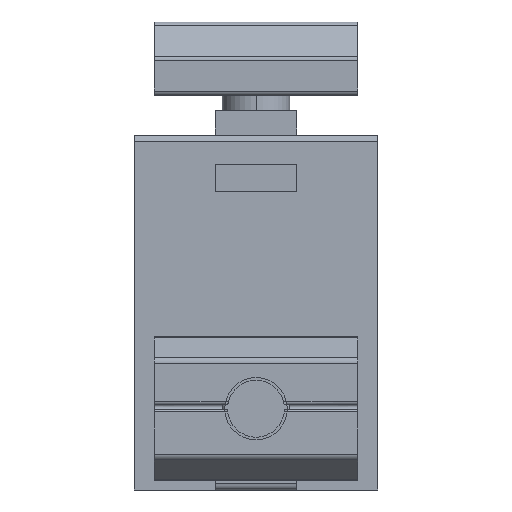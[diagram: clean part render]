
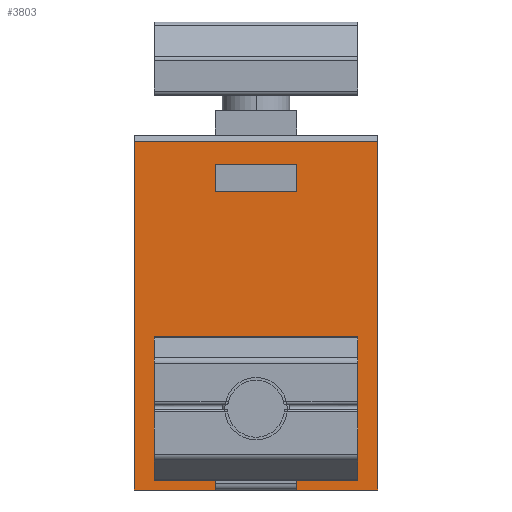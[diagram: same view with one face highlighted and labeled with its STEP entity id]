
A CAD part, left-side view. The second image highlights one B-rep face of the part: STEP entity #3803.
In plain terms, the highlighted planar face has unit normal (-1, 0, 0).
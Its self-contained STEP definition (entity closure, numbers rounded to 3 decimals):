
#7 = DIRECTION ( 'NONE',  ( 0., 0., 1. ) ) ;
#192 = CARTESIAN_POINT ( 'NONE',  ( 1.8, 6., -4. ) ) ;
#214 = CARTESIAN_POINT ( 'NONE',  ( 1.8, 6., -28. ) ) ;
#285 = CARTESIAN_POINT ( 'NONE',  ( 1.8, 9., -22. ) ) ;
#367 = ORIENTED_EDGE ( 'NONE', *, *, #2187, .T. ) ;
#514 = ORIENTED_EDGE ( 'NONE', *, *, #5459, .T. ) ;
#596 = EDGE_CURVE ( 'NONE', #8025, #1217, #8923, .T. ) ;
#605 = CARTESIAN_POINT ( 'NONE',  ( 1.8, 18., -2.3 ) ) ;
#787 = EDGE_CURVE ( 'NONE', #9099, #5266, #7165, .T. ) ;
#867 = VERTEX_POINT ( 'NONE', #6630 ) ;
#911 = ORIENTED_EDGE ( 'NONE', *, *, #596, .F. ) ;
#912 = EDGE_CURVE ( 'NONE', #9615, #5299, #3644, .T. ) ;
#1070 = VERTEX_POINT ( 'NONE', #4541 ) ;
#1147 = CARTESIAN_POINT ( 'NONE',  ( 1.8, 12., -6. ) ) ;
#1217 = VERTEX_POINT ( 'NONE', #214 ) ;
#1240 = CARTESIAN_POINT ( 'NONE',  ( 1.8, 12., -28. ) ) ;
#1473 = EDGE_LOOP ( 'NONE', ( #3561, #8133, #3430, #5357, #5062, #3177, #7162, #911 ) ) ;
#1677 = CIRCLE ( 'NONE', #4931, 2.6 ) ;
#1812 = VECTOR ( 'NONE', #2969, 1000. ) ;
#1894 = ORIENTED_EDGE ( 'NONE', *, *, #8973, .T. ) ;
#1900 = CARTESIAN_POINT ( 'NONE',  ( 1.8, 18., -28. ) ) ;
#1924 = CARTESIAN_POINT ( 'NONE',  ( 1.8, 0., -28. ) ) ;
#2018 = VECTOR ( 'NONE', #4176, 1000. ) ;
#2039 = VECTOR ( 'NONE', #6800, 1000. ) ;
#2074 = CARTESIAN_POINT ( 'NONE',  ( 1.8, 18., -4. ) ) ;
#2112 = DIRECTION ( 'NONE',  ( 0., -1., 0. ) ) ;
#2113 = DIRECTION ( 'NONE',  ( 0., -1., 0. ) ) ;
#2187 = EDGE_CURVE ( 'NONE', #9099, #5618, #5637, .T. ) ;
#2341 = DIRECTION ( 'NONE',  ( 0., 0., 1. ) ) ;
#2585 = CARTESIAN_POINT ( 'NONE',  ( 1.8, 6., -26. ) ) ;
#2615 = VECTOR ( 'NONE', #7622, 1000. ) ;
#2792 = FACE_BOUND ( 'NONE', #8846, .T. ) ;
#2969 = DIRECTION ( 'NONE',  ( 0., 0., 1. ) ) ;
#3177 = ORIENTED_EDGE ( 'NONE', *, *, #912, .T. ) ;
#3200 = CARTESIAN_POINT ( 'NONE',  ( 1.8, 12., -28. ) ) ;
#3311 = LINE ( 'NONE', #605, #4016 ) ;
#3342 = VECTOR ( 'NONE', #6467, 1000. ) ;
#3394 = VERTEX_POINT ( 'NONE', #192 ) ;
#3430 = ORIENTED_EDGE ( 'NONE', *, *, #4272, .F. ) ;
#3528 = AXIS2_PLACEMENT_3D ( 'NONE', #5931, #7348, #7412 ) ;
#3561 = ORIENTED_EDGE ( 'NONE', *, *, #8217, .T. ) ;
#3569 = CARTESIAN_POINT ( 'NONE',  ( 1.8, 12., -28. ) ) ;
#3592 = DIRECTION ( 'NONE',  ( 0., 1., 0. ) ) ;
#3601 = CARTESIAN_POINT ( 'NONE',  ( 1.8, 18., -6. ) ) ;
#3612 = CARTESIAN_POINT ( 'NONE',  ( 1.8, 0., -28. ) ) ;
#3632 = EDGE_LOOP ( 'NONE', ( #7182, #367, #3669, #9194 ) ) ;
#3644 = LINE ( 'NONE', #5133, #5636 ) ;
#3667 = PLANE ( 'NONE',  #9051 ) ;
#3669 = ORIENTED_EDGE ( 'NONE', *, *, #6905, .T. ) ;
#3803 = ADVANCED_FACE ( 'NONE', ( #2792, #6432, #5598 ), #3667, .F. ) ;
#4016 = VECTOR ( 'NONE', #6609, 1000. ) ;
#4176 = DIRECTION ( 'NONE',  ( 0., 1., 0. ) ) ;
#4220 = VERTEX_POINT ( 'NONE', #7795 ) ;
#4272 = EDGE_CURVE ( 'NONE', #867, #9222, #6056, .T. ) ;
#4424 = CIRCLE ( 'NONE', #3528, 2.6 ) ;
#4541 = CARTESIAN_POINT ( 'NONE',  ( 1.8, 9., -24.6 ) ) ;
#4595 = LINE ( 'NONE', #5139, #2039 ) ;
#4790 = CARTESIAN_POINT ( 'NONE',  ( 1.8, 6., -6. ) ) ;
#4829 = LINE ( 'NONE', #8169, #1812 ) ;
#4931 = AXIS2_PLACEMENT_3D ( 'NONE', #285, #7651, #6936 ) ;
#4983 = DIRECTION ( 'NONE',  ( 0., 0., 1. ) ) ;
#5048 = LINE ( 'NONE', #3200, #2615 ) ;
#5062 = ORIENTED_EDGE ( 'NONE', *, *, #8734, .T. ) ;
#5133 = CARTESIAN_POINT ( 'NONE',  ( 1.8, 18., -26. ) ) ;
#5139 = CARTESIAN_POINT ( 'NONE',  ( 1.8, 18., -28. ) ) ;
#5226 = VECTOR ( 'NONE', #4983, 1000. ) ;
#5266 = VERTEX_POINT ( 'NONE', #4790 ) ;
#5267 = VECTOR ( 'NONE', #7, 1000. ) ;
#5299 = VERTEX_POINT ( 'NONE', #2585 ) ;
#5357 = ORIENTED_EDGE ( 'NONE', *, *, #8148, .F. ) ;
#5459 = EDGE_CURVE ( 'NONE', #1070, #4220, #4424, .T. ) ;
#5576 = LINE ( 'NONE', #2074, #3342 ) ;
#5598 = FACE_OUTER_BOUND ( 'NONE', #1473, .T. ) ;
#5618 = VERTEX_POINT ( 'NONE', #6173 ) ;
#5636 = VECTOR ( 'NONE', #2113, 1000. ) ;
#5637 = LINE ( 'NONE', #1240, #5267 ) ;
#5806 = VERTEX_POINT ( 'NONE', #7679 ) ;
#5853 = CARTESIAN_POINT ( 'NONE',  ( 1.8, 18., -28. ) ) ;
#5896 = VERTEX_POINT ( 'NONE', #3569 ) ;
#5931 = CARTESIAN_POINT ( 'NONE',  ( 1.8, 9., -22. ) ) ;
#6056 = LINE ( 'NONE', #1900, #5226 ) ;
#6173 = CARTESIAN_POINT ( 'NONE',  ( 1.8, 12., -4. ) ) ;
#6195 = CARTESIAN_POINT ( 'NONE',  ( 1.8, 12., -26. ) ) ;
#6432 = FACE_BOUND ( 'NONE', #3632, .T. ) ;
#6467 = DIRECTION ( 'NONE',  ( 0., -1., 0. ) ) ;
#6609 = DIRECTION ( 'NONE',  ( 0., 1., 0. ) ) ;
#6630 = CARTESIAN_POINT ( 'NONE',  ( 1.8, 18., -28. ) ) ;
#6684 = DIRECTION ( 'NONE',  ( 1., 0., 0. ) ) ;
#6800 = DIRECTION ( 'NONE',  ( 0., 1., 0. ) ) ;
#6905 = EDGE_CURVE ( 'NONE', #5618, #3394, #5576, .T. ) ;
#6936 = DIRECTION ( 'NONE',  ( 0., 1., 0. ) ) ;
#6991 = LINE ( 'NONE', #7383, #8262 ) ;
#7162 = ORIENTED_EDGE ( 'NONE', *, *, #8012, .F. ) ;
#7165 = LINE ( 'NONE', #3601, #7756 ) ;
#7182 = ORIENTED_EDGE ( 'NONE', *, *, #787, .F. ) ;
#7348 = DIRECTION ( 'NONE',  ( 1., 0., 0. ) ) ;
#7383 = CARTESIAN_POINT ( 'NONE',  ( 1.8, 6., -28. ) ) ;
#7412 = DIRECTION ( 'NONE',  ( 0., 1., 0. ) ) ;
#7622 = DIRECTION ( 'NONE',  ( 0., 0., 1. ) ) ;
#7651 = DIRECTION ( 'NONE',  ( 1., 0., 0. ) ) ;
#7679 = CARTESIAN_POINT ( 'NONE',  ( 1.8, 0., -2.3 ) ) ;
#7756 = VECTOR ( 'NONE', #2112, 1000. ) ;
#7795 = CARTESIAN_POINT ( 'NONE',  ( 1.8, 9., -19.4 ) ) ;
#8012 = EDGE_CURVE ( 'NONE', #1217, #5299, #6991, .T. ) ;
#8025 = VERTEX_POINT ( 'NONE', #3612 ) ;
#8111 = EDGE_CURVE ( 'NONE', #5806, #9222, #3311, .T. ) ;
#8133 = ORIENTED_EDGE ( 'NONE', *, *, #8111, .T. ) ;
#8143 = DIRECTION ( 'NONE',  ( 0., 0., 1. ) ) ;
#8148 = EDGE_CURVE ( 'NONE', #5896, #867, #4595, .T. ) ;
#8169 = CARTESIAN_POINT ( 'NONE',  ( 1.8, 0., -28. ) ) ;
#8217 = EDGE_CURVE ( 'NONE', #8025, #5806, #4829, .T. ) ;
#8262 = VECTOR ( 'NONE', #8143, 1000. ) ;
#8332 = CARTESIAN_POINT ( 'NONE',  ( 1.8, 6., -28. ) ) ;
#8734 = EDGE_CURVE ( 'NONE', #5896, #9615, #5048, .T. ) ;
#8777 = CARTESIAN_POINT ( 'NONE',  ( 1.8, 18., -2.3 ) ) ;
#8829 = EDGE_CURVE ( 'NONE', #5266, #3394, #9036, .T. ) ;
#8846 = EDGE_LOOP ( 'NONE', ( #514, #1894 ) ) ;
#8923 = LINE ( 'NONE', #1924, #2018 ) ;
#8973 = EDGE_CURVE ( 'NONE', #4220, #1070, #1677, .T. ) ;
#9036 = LINE ( 'NONE', #8332, #9376 ) ;
#9051 = AXIS2_PLACEMENT_3D ( 'NONE', #5853, #6684, #3592 ) ;
#9099 = VERTEX_POINT ( 'NONE', #1147 ) ;
#9194 = ORIENTED_EDGE ( 'NONE', *, *, #8829, .F. ) ;
#9222 = VERTEX_POINT ( 'NONE', #8777 ) ;
#9376 = VECTOR ( 'NONE', #2341, 1000. ) ;
#9615 = VERTEX_POINT ( 'NONE', #6195 ) ;
